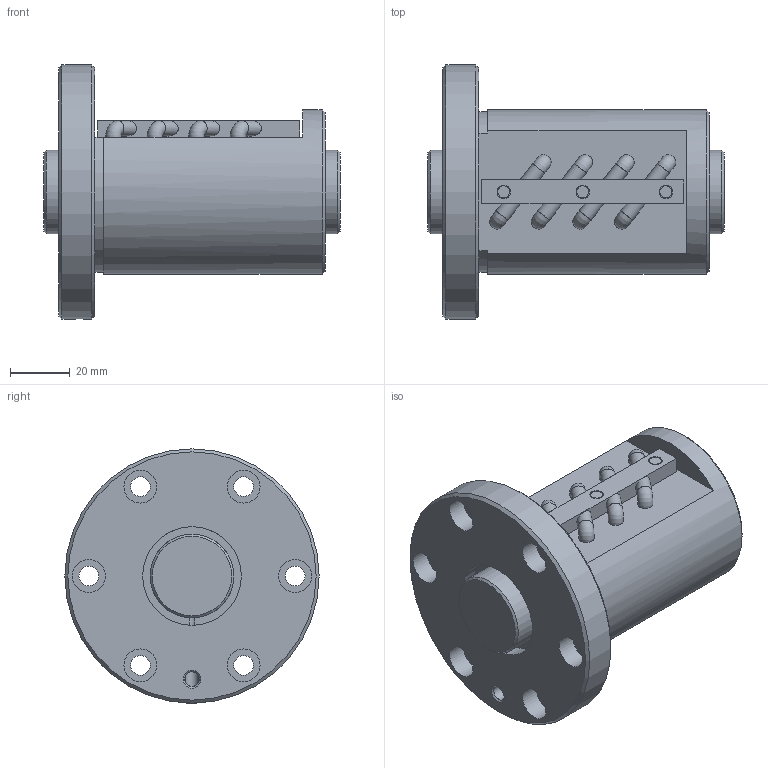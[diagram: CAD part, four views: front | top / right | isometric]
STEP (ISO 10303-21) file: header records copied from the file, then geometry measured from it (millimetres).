
FILE_DESCRIPTION(/* description */ ('STEP AP203'),/* implementation_level */ '2;1');
FILE_NAME(/* name */ 'BIF2805V-10RRG0+99LC0_000',/* time_stamp */ '2024-07-15T08:18:04+02:00',/* author */ ('License CC BY-ND 4.0'),/* organization */ ('CADENAS'),/* preprocessor_version */ 'ST-DEVELOPER v19.3',/* originating_system */ 'PARTsolutions',/* authorisation */ ' ');
FILE_SCHEMA (('CONFIG_CONTROL_DESIGN'));
Length unit declared in the file: millimetre
Products named in the file (3): BIF2805V-10RRG0+99LC0_000; BIF2805V-10RR000 Shaft; BIF2805V-10RR Nut
Assembly tree (2 placements, depth 2):
  BIF2805V-10RRG0+99LC0_000
    BIF2805V-10RR000 Shaft
    BIF2805V-10RR Nut
Bounding box: 99 x 85 x 85 mm (x, y, z)
Volume: 235180.9 mm3; surface area: 48269.8 mm2
Topology: 2 solids, 2 shells, 113 faces, 262 edges, 167 vertices
Faces by surface type: plane 53, cylinder 44, cone 8, torus 8
Full cylindrical faces by diameter (mm): 4 x3, 4.25 x2, 4.5 x3, 4.917 x1, 5.1 x8, 6.6 x6, 11 x6, 28 x2, 33 x2, 55 x1, 85 x1
Entity records: 3135 total; most frequent: CARTESIAN_POINT 601, DIRECTION 562, ORIENTED_EDGE 406, AXIS2_PLACEMENT_3D 258, EDGE_CURVE 203, EDGE_LOOP 202, FACE_BOUND 202, VERTEX_POINT 151
